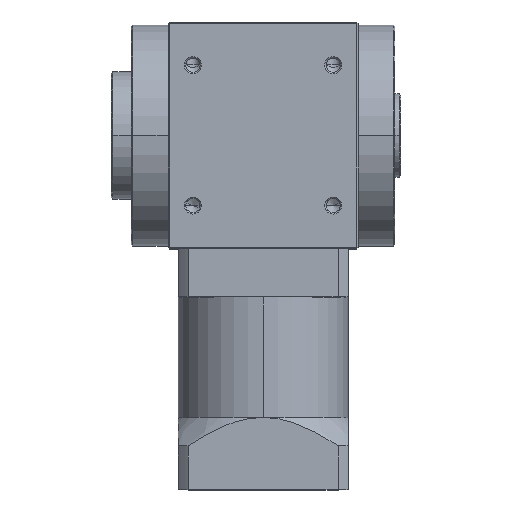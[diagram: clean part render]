
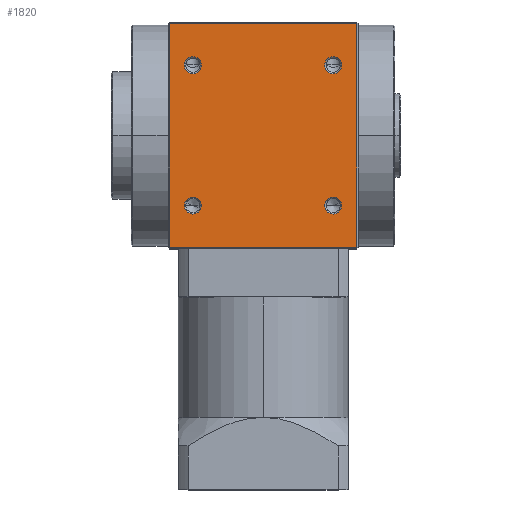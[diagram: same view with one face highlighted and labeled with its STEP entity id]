
A CAD part, top view. The second image highlights one B-rep face of the part: STEP entity #1820.
In plain terms, the highlighted planar face has unit normal (0, 0, 1).
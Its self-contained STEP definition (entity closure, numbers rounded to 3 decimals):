
#135 = CARTESIAN_POINT ( 'NONE',  ( 21.75, -24.75, 40. ) ) ;
#141 = VERTEX_POINT ( 'NONE', #5020 ) ;
#304 = DIRECTION ( 'NONE',  ( -1., 0., 0. ) ) ;
#416 = ORIENTED_EDGE ( 'NONE', *, *, #4778, .T. ) ;
#420 = CARTESIAN_POINT ( 'NONE',  ( 33., -39.5, 40. ) ) ;
#457 = VERTEX_POINT ( 'NONE', #135 ) ;
#555 = FACE_BOUND ( 'NONE', #7310, .T. ) ;
#575 = VECTOR ( 'NONE', #1238, 1000. ) ;
#663 = DIRECTION ( 'NONE',  ( -1., 0., 0. ) ) ;
#695 = CARTESIAN_POINT ( 'NONE',  ( 33.5, -39.5, 40. ) ) ;
#716 = AXIS2_PLACEMENT_3D ( 'NONE', #3076, #4255, #663 ) ;
#750 = FACE_BOUND ( 'NONE', #6819, .T. ) ;
#800 = VERTEX_POINT ( 'NONE', #916 ) ;
#819 = CIRCLE ( 'NONE', #7189, 3. ) ;
#916 = CARTESIAN_POINT ( 'NONE',  ( -21.75, -24.75, 40. ) ) ;
#936 = VERTEX_POINT ( 'NONE', #6549 ) ;
#1045 = EDGE_CURVE ( 'NONE', #2196, #3911, #3297, .T. ) ;
#1084 = CIRCLE ( 'NONE', #6578, 3. ) ;
#1124 = DIRECTION ( 'NONE',  ( 0., 0., -1. ) ) ;
#1138 = DIRECTION ( 'NONE',  ( -1., 0., 0. ) ) ;
#1238 = DIRECTION ( 'NONE',  ( -1., 0., 0. ) ) ;
#1255 = DIRECTION ( 'NONE',  ( -1., 0., 0. ) ) ;
#1483 = EDGE_CURVE ( 'NONE', #1942, #800, #2916, .T. ) ;
#1506 = VERTEX_POINT ( 'NONE', #4986 ) ;
#1673 = AXIS2_PLACEMENT_3D ( 'NONE', #6111, #7248, #6062 ) ;
#1735 = VERTEX_POINT ( 'NONE', #5260 ) ;
#1781 = EDGE_CURVE ( 'NONE', #457, #7662, #5045, .T. ) ;
#1806 = DIRECTION ( 'NONE',  ( -1., 0., 0. ) ) ;
#1820 = ADVANCED_FACE ( 'NONE', ( #750, #6340, #555, #2435, #2157 ), #2842, .F. ) ;
#1854 = CARTESIAN_POINT ( 'NONE',  ( 24.75, 24.75, 40. ) ) ;
#1902 = DIRECTION ( 'NONE',  ( 1., 0., 0. ) ) ;
#1942 = VERTEX_POINT ( 'NONE', #4237 ) ;
#2002 = DIRECTION ( 'NONE',  ( 0., 0., -1. ) ) ;
#2128 = DIRECTION ( 'NONE',  ( 0., 0., -1. ) ) ;
#2140 = ORIENTED_EDGE ( 'NONE', *, *, #1045, .T. ) ;
#2157 = FACE_OUTER_BOUND ( 'NONE', #5252, .T. ) ;
#2179 = LINE ( 'NONE', #4000, #6564 ) ;
#2196 = VERTEX_POINT ( 'NONE', #2660 ) ;
#2297 = DIRECTION ( 'NONE',  ( -1., 0., 0. ) ) ;
#2435 = FACE_BOUND ( 'NONE', #3356, .T. ) ;
#2660 = CARTESIAN_POINT ( 'NONE',  ( 33., 39.5, 40. ) ) ;
#2755 = CARTESIAN_POINT ( 'NONE',  ( -33., 40., 40. ) ) ;
#2783 = AXIS2_PLACEMENT_3D ( 'NONE', #5564, #2002, #304 ) ;
#2842 = PLANE ( 'NONE',  #7723 ) ;
#2916 = CIRCLE ( 'NONE', #2783, 3. ) ;
#2942 = CARTESIAN_POINT ( 'NONE',  ( -33., 39.5, 40. ) ) ;
#3011 = ORIENTED_EDGE ( 'NONE', *, *, #5670, .T. ) ;
#3043 = DIRECTION ( 'NONE',  ( 0., 0., -1. ) ) ;
#3076 = CARTESIAN_POINT ( 'NONE',  ( -24.75, 24.75, 40. ) ) ;
#3163 = EDGE_CURVE ( 'NONE', #800, #1942, #5256, .T. ) ;
#3172 = EDGE_CURVE ( 'NONE', #3911, #936, #5165, .T. ) ;
#3245 = CIRCLE ( 'NONE', #716, 3. ) ;
#3297 = LINE ( 'NONE', #6566, #575 ) ;
#3302 = EDGE_CURVE ( 'NONE', #3348, #2196, #2179, .T. ) ;
#3325 = CARTESIAN_POINT ( 'NONE',  ( -24.75, -24.75, 40. ) ) ;
#3348 = VERTEX_POINT ( 'NONE', #420 ) ;
#3356 = EDGE_LOOP ( 'NONE', ( #4490, #416 ) ) ;
#3499 = AXIS2_PLACEMENT_3D ( 'NONE', #3325, #2128, #6868 ) ;
#3568 = ORIENTED_EDGE ( 'NONE', *, *, #1781, .T. ) ;
#3643 = CARTESIAN_POINT ( 'NONE',  ( -24.75, 24.75, 40. ) ) ;
#3887 = ORIENTED_EDGE ( 'NONE', *, *, #6883, .T. ) ;
#3911 = VERTEX_POINT ( 'NONE', #2942 ) ;
#4000 = CARTESIAN_POINT ( 'NONE',  ( 33., 40., 40. ) ) ;
#4133 = DIRECTION ( 'NONE',  ( -1., 0., 0. ) ) ;
#4188 = ORIENTED_EDGE ( 'NONE', *, *, #3302, .T. ) ;
#4237 = CARTESIAN_POINT ( 'NONE',  ( -27.75, -24.75, 40. ) ) ;
#4255 = DIRECTION ( 'NONE',  ( 0., 0., -1. ) ) ;
#4461 = CIRCLE ( 'NONE', #5376, 3. ) ;
#4490 = ORIENTED_EDGE ( 'NONE', *, *, #4667, .T. ) ;
#4516 = VERTEX_POINT ( 'NONE', #6371 ) ;
#4543 = AXIS2_PLACEMENT_3D ( 'NONE', #5267, #5290, #2297 ) ;
#4608 = DIRECTION ( 'NONE',  ( 0., 1., 0. ) ) ;
#4667 = EDGE_CURVE ( 'NONE', #1506, #1735, #3245, .T. ) ;
#4709 = CARTESIAN_POINT ( 'NONE',  ( 24.75, 24.75, 40. ) ) ;
#4771 = EDGE_CURVE ( 'NONE', #4516, #141, #1084, .T. ) ;
#4778 = EDGE_CURVE ( 'NONE', #1735, #1506, #4461, .T. ) ;
#4846 = LINE ( 'NONE', #695, #5770 ) ;
#4986 = CARTESIAN_POINT ( 'NONE',  ( -21.75, 24.75, 40. ) ) ;
#5020 = CARTESIAN_POINT ( 'NONE',  ( 21.75, 24.75, 40. ) ) ;
#5045 = CIRCLE ( 'NONE', #4543, 3. ) ;
#5147 = ORIENTED_EDGE ( 'NONE', *, *, #1483, .T. ) ;
#5165 = LINE ( 'NONE', #2755, #7399 ) ;
#5252 = EDGE_LOOP ( 'NONE', ( #3887, #4188, #2140, #6279 ) ) ;
#5256 = CIRCLE ( 'NONE', #3499, 3. ) ;
#5260 = CARTESIAN_POINT ( 'NONE',  ( -27.75, 24.75, 40. ) ) ;
#5267 = CARTESIAN_POINT ( 'NONE',  ( 24.75, -24.75, 40. ) ) ;
#5290 = DIRECTION ( 'NONE',  ( 0., 0., -1. ) ) ;
#5338 = CIRCLE ( 'NONE', #1673, 3. ) ;
#5376 = AXIS2_PLACEMENT_3D ( 'NONE', #3643, #7249, #1806 ) ;
#5473 = ORIENTED_EDGE ( 'NONE', *, *, #6762, .T. ) ;
#5564 = CARTESIAN_POINT ( 'NONE',  ( -24.75, -24.75, 40. ) ) ;
#5670 = EDGE_CURVE ( 'NONE', #7662, #457, #5338, .T. ) ;
#5696 = ORIENTED_EDGE ( 'NONE', *, *, #4771, .T. ) ;
#5770 = VECTOR ( 'NONE', #1902, 1000. ) ;
#5773 = DIRECTION ( 'NONE',  ( 0., -1., 0. ) ) ;
#6015 = EDGE_LOOP ( 'NONE', ( #3011, #3568 ) ) ;
#6062 = DIRECTION ( 'NONE',  ( -1., 0., 0. ) ) ;
#6111 = CARTESIAN_POINT ( 'NONE',  ( 24.75, -24.75, 40. ) ) ;
#6172 = CARTESIAN_POINT ( 'NONE',  ( 27.75, -24.75, 40. ) ) ;
#6275 = ORIENTED_EDGE ( 'NONE', *, *, #3163, .T. ) ;
#6279 = ORIENTED_EDGE ( 'NONE', *, *, #3172, .T. ) ;
#6340 = FACE_BOUND ( 'NONE', #6015, .T. ) ;
#6371 = CARTESIAN_POINT ( 'NONE',  ( 27.75, 24.75, 40. ) ) ;
#6428 = DIRECTION ( 'NONE',  ( 0., 0., -1. ) ) ;
#6549 = CARTESIAN_POINT ( 'NONE',  ( -33., -39.5, 40. ) ) ;
#6564 = VECTOR ( 'NONE', #4608, 1000. ) ;
#6566 = CARTESIAN_POINT ( 'NONE',  ( 33.5, 39.5, 40. ) ) ;
#6578 = AXIS2_PLACEMENT_3D ( 'NONE', #1854, #3043, #1255 ) ;
#6762 = EDGE_CURVE ( 'NONE', #141, #4516, #819, .T. ) ;
#6819 = EDGE_LOOP ( 'NONE', ( #6275, #5147 ) ) ;
#6868 = DIRECTION ( 'NONE',  ( -1., 0., 0. ) ) ;
#6883 = EDGE_CURVE ( 'NONE', #936, #3348, #4846, .T. ) ;
#7189 = AXIS2_PLACEMENT_3D ( 'NONE', #4709, #1124, #4133 ) ;
#7248 = DIRECTION ( 'NONE',  ( 0., 0., -1. ) ) ;
#7249 = DIRECTION ( 'NONE',  ( 0., 0., -1. ) ) ;
#7310 = EDGE_LOOP ( 'NONE', ( #5696, #5473 ) ) ;
#7399 = VECTOR ( 'NONE', #5773, 1000. ) ;
#7662 = VERTEX_POINT ( 'NONE', #6172 ) ;
#7686 = CARTESIAN_POINT ( 'NONE',  ( 33.5, 40., 40. ) ) ;
#7723 = AXIS2_PLACEMENT_3D ( 'NONE', #7686, #6428, #1138 ) ;
